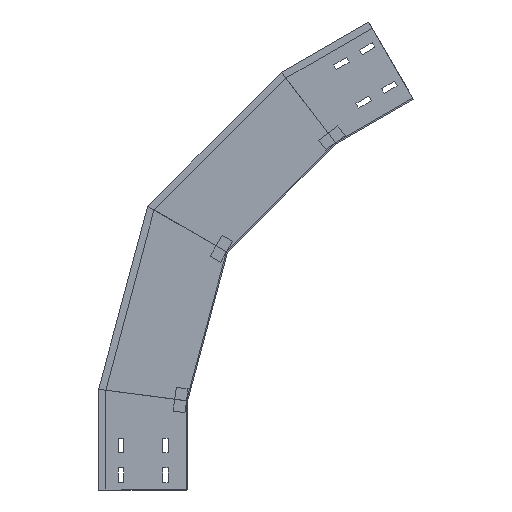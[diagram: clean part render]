
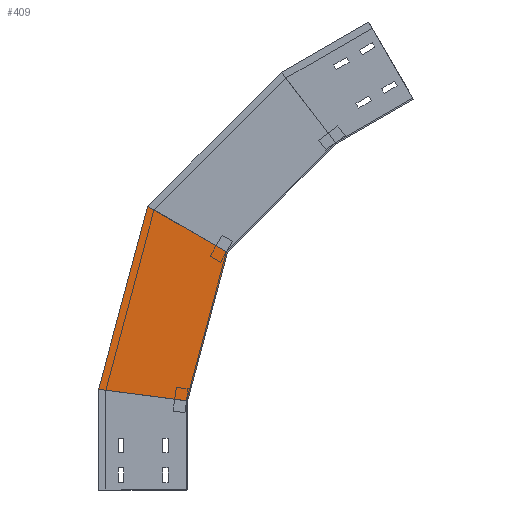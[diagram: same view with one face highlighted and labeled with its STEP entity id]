
A CAD part, left-side view. The second image highlights one B-rep face of the part: STEP entity #409.
In plain terms, the highlighted planar face has unit normal (-1, 0, 0) as drawn and (1, 0, 0) by its records, which use the part's own axes.
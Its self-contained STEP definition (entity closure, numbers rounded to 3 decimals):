
#34 = ORIENTED_EDGE ( 'NONE', *, *, #1093, .F. ) ;
#88 = LINE ( 'NONE', #1471, #145 ) ;
#145 = VECTOR ( 'NONE', #1980, 1000. ) ;
#167 = EDGE_CURVE ( 'NONE', #851, #1340, #1855, .T. ) ;
#210 = EDGE_CURVE ( 'NONE', #851, #1490, #2050, .T. ) ;
#313 = DIRECTION ( 'NONE',  ( 0., -0.866, -0.5 ) ) ;
#399 = CARTESIAN_POINT ( 'NONE',  ( 0., -35.701, 368.842 ) ) ;
#409 = ADVANCED_FACE ( 'NONE', ( #1768 ), #1915, .T. ) ;
#458 = CARTESIAN_POINT ( 'NONE',  ( 0., -274.276, 551.906 ) ) ;
#491 = ORIENTED_EDGE ( 'NONE', *, *, #210, .T. ) ;
#493 = DIRECTION ( 'NONE',  ( 0., -0.707, 0.707 ) ) ;
#626 = CARTESIAN_POINT ( 'NONE',  ( 0., -129.979, 363.834 ) ) ;
#732 = CARTESIAN_POINT ( 'NONE',  ( 0., 67.452, 477.821 ) ) ;
#851 = VERTEX_POINT ( 'NONE', #732 ) ;
#909 = CARTESIAN_POINT ( 'NONE',  ( 0., -67.034, 400.175 ) ) ;
#922 = ORIENTED_EDGE ( 'NONE', *, *, #1856, .T. ) ;
#1093 = EDGE_CURVE ( 'NONE', #1340, #1661, #88, .T. ) ;
#1239 = DIRECTION ( 'NONE',  ( 1., 0., 0. ) ) ;
#1255 = DIRECTION ( 'NONE',  ( 0., 0., -1. ) ) ;
#1286 = CARTESIAN_POINT ( 'NONE',  ( 0., -250.175, 583.315 ) ) ;
#1340 = VERTEX_POINT ( 'NONE', #909 ) ;
#1471 = CARTESIAN_POINT ( 'NONE',  ( 0., -35.701, 368.842 ) ) ;
#1490 = VERTEX_POINT ( 'NONE', #2006 ) ;
#1518 = VECTOR ( 'NONE', #313, 1000. ) ;
#1661 = VERTEX_POINT ( 'NONE', #1286 ) ;
#1682 = AXIS2_PLACEMENT_3D ( 'NONE', #399, #1239, #1255 ) ;
#1768 = FACE_OUTER_BOUND ( 'NONE', #2078, .T. ) ;
#1796 = VECTOR ( 'NONE', #493, 1000. ) ;
#1855 = LINE ( 'NONE', #626, #1518 ) ;
#1856 = EDGE_CURVE ( 'NONE', #1490, #1661, #2176, .T. ) ;
#1915 = PLANE ( 'NONE',  #1682 ) ;
#1980 = DIRECTION ( 'NONE',  ( 0., -0.707, 0.707 ) ) ;
#2004 = DIRECTION ( 'NONE',  ( 0., -0.609, -0.793 ) ) ;
#2006 = CARTESIAN_POINT ( 'NONE',  ( 0., -158.073, 703.345 ) ) ;
#2050 = LINE ( 'NONE', #2207, #1796 ) ;
#2078 = EDGE_LOOP ( 'NONE', ( #491, #922, #34, #2173 ) ) ;
#2152 = VECTOR ( 'NONE', #2004, 1000. ) ;
#2173 = ORIENTED_EDGE ( 'NONE', *, *, #167, .F. ) ;
#2176 = LINE ( 'NONE', #458, #2152 ) ;
#2207 = CARTESIAN_POINT ( 'NONE',  ( 0., 70.365, 474.908 ) ) ;
